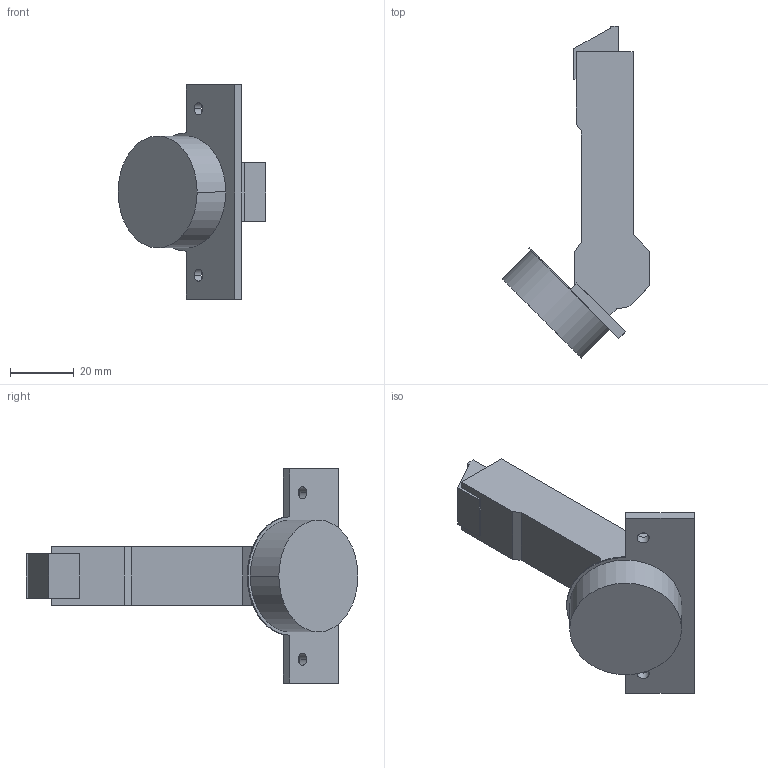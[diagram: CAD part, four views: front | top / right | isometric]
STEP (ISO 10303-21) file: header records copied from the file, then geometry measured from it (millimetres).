
FILE_DESCRIPTION (( 'STEP AP214' ), '1' );
FILE_NAME ('Scharnier TS Click-on 110°_+45° H_BB, aufliegend, KMPL-37, H00.step', '2018-09-19T13:18:06', ( '' ), ( '' ), 'SwSTEP 2.0', 'SolidWorks 2017', '' );
FILE_SCHEMA (( 'AUTOMOTIVE_DESIGN' ));
Length unit declared in the file: millimetre
Products named in the file (1): Scharnier TS Click-on 110°_+45° H_BB, aufliegend, KMPL-37, H00
Bounding box: 46.27 x 103.84 x 67 mm (x, y, z)
Volume: 43673.8 mm3; surface area: 12255.3 mm2
Topology: 1 solids, 1 shells, 48 faces, 126 edges, 84 vertices
Faces by surface type: plane 35, cylinder 13
Entity records: 1518 total; most frequent: CARTESIAN_POINT 259, ORIENTED_EDGE 252, DIRECTION 250, EDGE_CURVE 126, VECTOR 100, LINE 100, VERTEX_POINT 84, AXIS2_PLACEMENT_3D 75
